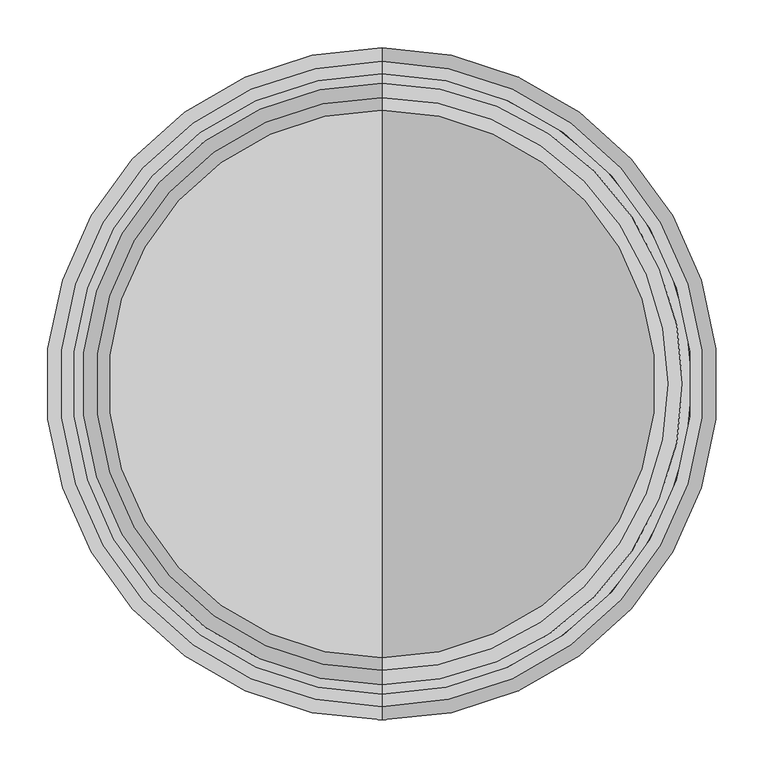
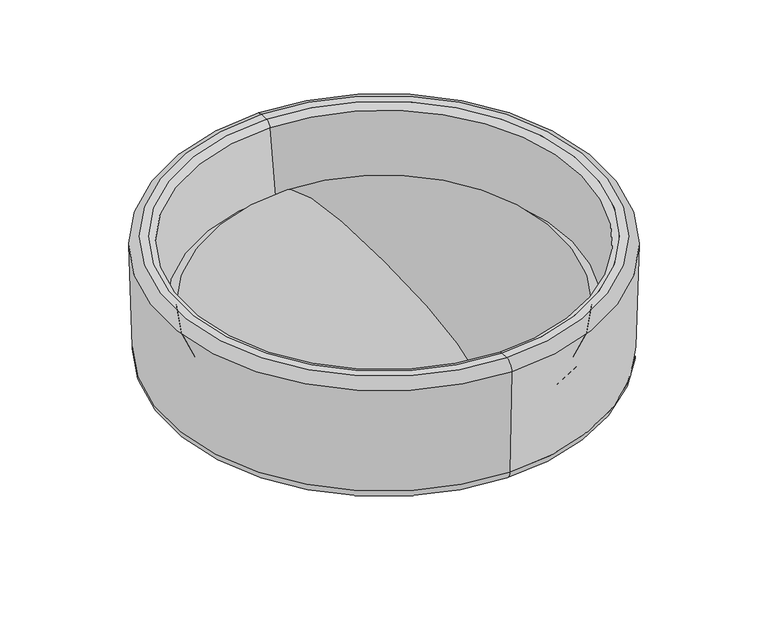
"""IFC4 building model written with IfcOpenShell, lengths in millimetres: light fixture geometry, MARSET_Interior-Lighting-Fixture_Face-Based_Ringo-70C : A732-001-53-3CCT."""

from ifc_helpers import new_model, si_unit, point, frame, origin, place, context, project, spatial, polyline, circle_curve, ellipse_curve, trimmed, source, transform, mapped, element, save
from ifc_brep_helpers import plane_surface, cylinder_surface, revolved_surface, spline_curve, advanced_brep


def light_fixture_47f498ca(model_context):
    return source(origin(), model_context, "Body", "AdvancedBrep", [
        advanced_brep(
        [(0.0, -250.3034973, 121.8623352), (0.0, 250.3034973, 121.8623352), (0.0, 0.0, 121.8623352), (0.0, 0.0, 219.5871917)],
        [
            (0, 1, circle_curve(frame((0.0, 0.0, 121.8623352), z_axis=(0.0, 0.0, -1.0), x_axis=(0.0, 1.0, 0.0)), 250.3034973)),
            (1, 2),
            (2, 0),
            (1, 0, circle_curve(frame((0.0, 0.0, 121.8623352), z_axis=(0.0, 0.0, -1.0), x_axis=(0.0, 1.0, 0.0)), 250.3034973)),
            (3, 1, spline_curve(3, [(0.0, 0.0, 219.5871917), (0.0, 132.18064352, 219.5871917), (0.0, 213.977829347, 207.24511407), (0.0, 282.55368574, 169.596071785), (0.0, 290.543044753, 149.319119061), (0.0, 277.348055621, 127.613389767), (0.0, 269.134698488, 121.8623352), (0.0, 250.3034973, 121.8623352)], [4, 2, 2, 4], [0.0, 0.36765608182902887, 0.6244787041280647, 0.7482334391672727])),
            (0, 3, spline_curve(3, [(0.0, -250.3034973, 121.8623352), (0.0, -269.134698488, 121.8623352), (0.0, -277.348055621, 127.613389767), (0.0, -290.543044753, 149.319119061), (0.0, -282.55368574, 169.596071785), (0.0, -213.977829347, 207.24511407), (0.0, -132.18064352, 219.5871917), (0.0, 0.0, 219.5871917)], [4, 2, 2, 4], [0.0, 0.12375473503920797, 0.3805773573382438, 0.7482334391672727])),
        ],
        [
            plane_surface(frame((0.0, 0.0, 121.8623352), z_axis=(0.0, 0.0, -1.0), x_axis=(0.0, 1.0, 0.0))),
            revolved_surface(spline_curve(3, [(0.0, 250.3034973, 121.8623352), (0.0, 269.134698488, 121.8623352), (0.0, 277.348055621, 127.613389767), (0.0, 290.543044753, 149.319119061), (0.0, 282.55368574, 169.596071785), (0.0, 213.977829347, 207.24511407), (0.0, 132.18064352, 219.5871917), (0.0, 0.0, 219.5871917)], [4, 2, 2, 4], [0.0, 0.12375473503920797, 0.3805773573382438, 0.7482334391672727]), (0.0, 0.0, 330.0), (0.0, 0.0, 1.0)),
        ],
        [
            (0, [[1, 2, 3]]),
            (0, [[4, -3, -2]]),
            (1, [[5, -1, 6]]),
            (1, [[-6, -4, -5]]),
        ],
    ),
        advanced_brep(
        [(0.0, -336.1360456, 261.7777252), (0.0, 336.1360456, 261.7777252), (0.0, 350.1857811, 247.3490768), (0.0, -350.1857811, 247.3490768), (0.0, -323.3210908, 261.7777252), (0.0, 323.3210908, 261.7777252), (0.0, -313.4184101, 253.1694562), (0.0, 313.4184101, 253.1694562), (0.0, -298.5823019, 147.6050615), (0.0, 298.5823019, 147.6050615), (0.0, -263.9229195, 117.47612), (0.0, 263.9229195, 117.47612), (0.0, 0.0, 117.47612), (0.0, -85.6686743, 50.0), (0.0, 85.6686743, 50.0), (0.0, 0.0, 50.0), (0.0, -85.6686743, 52.5277759), (0.0, 85.6686743, 52.5277759), (0.0, -84.8806425, 53.4669156), (0.0, 84.8806425, 53.4669156), (0.0, -328.8442111, 59.4172605), (0.0, 328.8442111, 59.4172605), (0.0, -345.6296823, 76.1654503), (0.0, 345.6296823, 76.1654503)],
        [
            (0, 1, circle_curve(frame((0.0, 0.0, 261.7777252), z_axis=(0.0, 0.0, -1.0), x_axis=(0.0, 1.0, 0.0)), 336.1360456)),
            (1, 2, circle_curve(frame((0.0, 336.1360456, 247.7230143), z_axis=(-1.0, 0.0, 0.0), x_axis=(0.0, -1.0, 0.0)), 14.0547109)),
            (2, 3, circle_curve(frame((0.0, 0.0, 247.3490768), z_axis=(0.0, 0.0, 1.0), x_axis=(0.0, 1.0, 0.0)), 350.1857811)),
            (3, 0, circle_curve(frame((0.0, -336.1360456, 247.7230143), z_axis=(-1.0, 0.0, 0.0), x_axis=(0.0, 1.0, 0.0)), 14.0547109)),
            (1, 0, circle_curve(frame((0.0, 0.0, 261.7777252), z_axis=(0.0, 0.0, -1.0), x_axis=(0.0, 1.0, 0.0)), 336.1360456)),
            (3, 2, circle_curve(frame((0.0, 0.0, 247.3490768), z_axis=(0.0, 0.0, 1.0), x_axis=(0.0, 1.0, 0.0)), 350.1857811)),
            (4, 5, circle_curve(frame((0.0, 0.0, 261.7777252), z_axis=(0.0, 0.0, -1.0), x_axis=(0.0, 1.0, 0.0)), 323.3210908)),
            (5, 1),
            (0, 4),
            (5, 4, circle_curve(frame((0.0, 0.0, 261.7777252), z_axis=(0.0, 0.0, -1.0), x_axis=(0.0, 1.0, 0.0)), 323.3210908)),
            (6, 7, circle_curve(frame((0.0, 0.0, 253.1694562), z_axis=(0.0, 0.0, -1.0), x_axis=(0.0, 1.0, 0.0)), 313.4184101)),
            (7, 5, circle_curve(frame((0.0, 323.3210908, 251.7777252), z_axis=(-1.0, 0.0, 0.0), x_axis=(0.0, -1.0, 0.0)), 10.0)),
            (4, 6, circle_curve(frame((0.0, -323.3210908, 251.7777252), z_axis=(-1.0, 0.0, 0.0), x_axis=(0.0, 1.0, 0.0)), 10.0)),
            (7, 6, circle_curve(frame((0.0, 0.0, 253.1694562), z_axis=(0.0, 0.0, -1.0), x_axis=(0.0, 1.0, 0.0)), 313.4184101)),
            (8, 9, circle_curve(frame((0.0, 0.0, 147.6050615), z_axis=(0.0, 0.0, -1.0), x_axis=(0.0, 1.0, 0.0)), 298.5823019)),
            (9, 7),
            (6, 8),
            (9, 8, circle_curve(frame((0.0, 0.0, 147.6050615), z_axis=(0.0, 0.0, -1.0), x_axis=(0.0, 1.0, 0.0)), 298.5823019)),
            (10, 11, circle_curve(frame((0.0, 0.0, 117.47612), z_axis=(0.0, 0.0, -1.0), x_axis=(0.0, 1.0, 0.0)), 263.9229195)),
            (11, 9, circle_curve(frame((0.0, 263.9229195, 152.47612), z_axis=(1.0, 0.0, 0.0), x_axis=(0.0, -1.0, 0.0)), 35.0)),
            (8, 10, circle_curve(frame((0.0, -263.9229195, 152.47612), z_axis=(1.0, 0.0, 0.0), x_axis=(0.0, 1.0, 0.0)), 35.0)),
            (11, 10, circle_curve(frame((0.0, 0.0, 117.47612), z_axis=(0.0, 0.0, -1.0), x_axis=(0.0, 1.0, 0.0)), 263.9229195)),
            (12, 11),
            (10, 12),
            (13, 14, circle_curve(frame((0.0, 0.0, 50.0), z_axis=(0.0, 0.0, -1.0), x_axis=(0.0, 1.0, 0.0)), 85.6686743)),
            (14, 15),
            (15, 13),
            (14, 13, circle_curve(frame((0.0, 0.0, 50.0), z_axis=(0.0, 0.0, -1.0), x_axis=(0.0, 1.0, 0.0)), 85.6686743)),
            (16, 17, circle_curve(frame((0.0, 0.0, 52.5277759), z_axis=(0.0, 0.0, -1.0), x_axis=(0.0, 1.0, 0.0)), 85.6686743)),
            (17, 14),
            (13, 16),
            (17, 16, circle_curve(frame((0.0, 0.0, 52.5277759), z_axis=(0.0, 0.0, -1.0), x_axis=(0.0, 1.0, 0.0)), 85.6686743)),
            (18, 19, circle_curve(frame((0.0, 0.0, 53.4669156), z_axis=(0.0, 0.0, -1.0), x_axis=(0.0, 1.0, 0.0)), 84.8806425)),
            (19, 17),
            (16, 18),
            (19, 18, circle_curve(frame((0.0, 0.0, 53.4669156), z_axis=(0.0, 0.0, -1.0), x_axis=(0.0, 1.0, 0.0)), 84.8806425)),
            (20, 21, circle_curve(frame((0.0, 0.0, 59.4172605), z_axis=(0.0, 0.0, -1.0), x_axis=(0.0, 1.0, 0.0)), 328.8442111)),
            (21, 19),
            (18, 20),
            (21, 20, circle_curve(frame((0.0, 0.0, 59.4172605), z_axis=(0.0, 0.0, -1.0), x_axis=(0.0, 1.0, 0.0)), 328.8442111)),
            (22, 23, circle_curve(frame((0.0, 0.0, 76.1654503), z_axis=(0.0, 0.0, -1.0), x_axis=(0.0, 1.0, 0.0)), 345.6296823)),
            (23, 21, circle_curve(frame((0.0, 328.4245489, 76.6233696), z_axis=(-1.0, 0.0, 0.0), x_axis=(0.0, -1.0, 0.0)), 17.2112261)),
            (20, 22, circle_curve(frame((0.0, -328.4245489, 76.6233696), z_axis=(-1.0, 0.0, 0.0), x_axis=(0.0, 1.0, 0.0)), 17.2112261)),
            (23, 22, circle_curve(frame((0.0, 0.0, 76.1654503), z_axis=(0.0, 0.0, -1.0), x_axis=(0.0, 1.0, 0.0)), 345.6296823)),
            (2, 23),
            (22, 3),
        ],
        [
            revolved_surface(trimmed(ellipse_curve(frame((0.0, 336.1360456, 247.7230143), z_axis=(1.0, 0.0, 0.0), x_axis=(0.0, -1.0, 0.0)), 14.0547109, 14.0547109), [point((0.0, 350.1857811, 247.3490768))], [point((0.0, 336.1360456, 261.7777252))], True, "CARTESIAN"), (0.0, 0.0, -22.3332977), (0.0, 0.0, 1.0)),
            plane_surface(frame((0.0, 0.0, 261.7777252), z_axis=(0.0, 0.0, 1.0), x_axis=(0.0, 1.0, 0.0))),
            revolved_surface(trimmed(ellipse_curve(frame((0.0, 323.3210908, 251.7777252), z_axis=(1.0, 0.0, 0.0), x_axis=(0.0, -1.0, 0.0)), 10.0, 10.0), [point((0.0, 323.3210908, 261.7777252))], [point((0.0, 313.4184101, 253.1694562))], True, "CARTESIAN"), (0.0, 0.0, -22.3332977), (0.0, 0.0, 1.0)),
            revolved_surface(polyline([(0.0, 313.4184101, 253.1694562), (0.0, 298.5823019, 147.6050615)]), (0.0, 0.0, -22.3332977), (0.0, 0.0, 1.0)),
            revolved_surface(trimmed(ellipse_curve(frame((0.0, 263.9229195, 152.47612), z_axis=(-1.0, 0.0, 0.0), x_axis=(0.0, -1.0, 0.0)), 35.0, 35.0), [point((0.0, 298.5823019, 147.6050615))], [point((0.0, 263.9229195, 117.47612))], True, "CARTESIAN"), (0.0, 0.0, -22.3332977), (0.0, 0.0, 1.0)),
            plane_surface(frame((0.0, 0.0, 117.47612), z_axis=(0.0, 0.0, 1.0), x_axis=(0.0, 1.0, 0.0))),
            plane_surface(frame((0.0, 0.0, 50.0), z_axis=(0.0, 0.0, -1.0), x_axis=(0.0, 1.0, 0.0))),
            cylinder_surface(frame((0.0, 0.0, -22.3332977), z_axis=(0.0, 0.0, 1.0), x_axis=(0.0, 1.0, 0.0)), 85.6686743),
            revolved_surface(polyline([(0.0, 85.6686743, 52.5277759), (0.0, 84.8806425, 53.4669156)]), (0.0, 0.0, -22.3332977), (0.0, 0.0, 1.0)),
            revolved_surface(polyline([(0.0, 84.8806425, 53.4669156), (0.0, 328.8442111, 59.4172605)]), (0.0, 0.0, -22.3332977), (0.0, 0.0, 1.0)),
            revolved_surface(trimmed(ellipse_curve(frame((0.0, 328.4245489, 76.6233696), z_axis=(1.0, 0.0, 0.0), x_axis=(0.0, -1.0, 0.0)), 17.2112261, 17.2112261), [point((0.0, 328.8442111, 59.4172605))], [point((0.0, 345.6296823, 76.1654503))], True, "CARTESIAN"), (0.0, 0.0, -22.3332977), (0.0, 0.0, 1.0)),
            revolved_surface(polyline([(0.0, 345.6296823, 76.1654503), (0.0, 350.1857811, 247.3490768)]), (0.0, 0.0, -22.3332977), (0.0, 0.0, 1.0)),
        ],
        [
            (0, [[1, 2, 3, 4]]),
            (0, [[5, -4, 6, -2]]),
            (1, [[7, 8, -1, 9]]),
            (1, [[10, -9, -5, -8]]),
            (2, [[11, 12, -7, 13]]),
            (2, [[14, -13, -10, -12]]),
            (3, [[15, 16, -11, 17]]),
            (3, [[18, -17, -14, -16]]),
            (4, [[19, 20, -15, 21]]),
            (4, [[22, -21, -18, -20]]),
            (5, [[23, -19, 24]]),
            (5, [[-24, -22, -23]]),
            (6, [[25, 26, 27]]),
            (6, [[28, -27, -26]]),
            (7, [[29, 30, -25, 31]]),
            (7, [[32, -31, -28, -30]]),
            (8, [[33, 34, -29, 35]]),
            (8, [[36, -35, -32, -34]]),
            (9, [[37, 38, -33, 39]]),
            (9, [[40, -39, -36, -38]]),
            (10, [[41, 42, -37, 43]]),
            (10, [[44, -43, -40, -42]]),
            (11, [[-3, 45, -41, 46]]),
            (11, [[-6, -46, -44, -45]]),
        ],
    ),
        advanced_brep(
        [(0.0, -68.091695, 50.0), (0.0, 68.091695, 50.0), (0.0, 70.123291, 47.968404), (0.0, -70.123291, 47.968404), (0.0, 0.0, 50.0), (0.0, -70.123291, 0.0), (0.0, 70.123291, 0.0), (0.0, 0.0, 0.0)],
        [
            (0, 1, circle_curve(frame((0.0, 0.0, 50.0), z_axis=(0.0, 0.0, -1.0), x_axis=(0.0, 1.0, 0.0)), 68.091695)),
            (1, 2, circle_curve(frame((0.0, 68.091695, 47.968404), z_axis=(-1.0, 0.0, 0.0), x_axis=(0.0, -1.0, 0.0)), 2.031596)),
            (2, 3, circle_curve(frame((0.0, 0.0, 47.968404), z_axis=(0.0, 0.0, 1.0), x_axis=(0.0, 1.0, 0.0)), 70.123291)),
            (3, 0, circle_curve(frame((0.0, -68.091695, 47.968404), z_axis=(-1.0, 0.0, 0.0), x_axis=(0.0, 1.0, 0.0)), 2.031596)),
            (1, 0, circle_curve(frame((0.0, 0.0, 50.0), z_axis=(0.0, 0.0, -1.0), x_axis=(0.0, 1.0, 0.0)), 68.091695)),
            (3, 2, circle_curve(frame((0.0, 0.0, 47.968404), z_axis=(0.0, 0.0, 1.0), x_axis=(0.0, 1.0, 0.0)), 70.123291)),
            (4, 1),
            (0, 4),
            (5, 6, circle_curve(frame((0.0, 0.0, 0.0), z_axis=(0.0, 0.0, -1.0), x_axis=(0.0, 1.0, 0.0)), 70.123291)),
            (6, 7),
            (7, 5),
            (6, 5, circle_curve(frame((0.0, 0.0, 0.0), z_axis=(0.0, 0.0, -1.0), x_axis=(0.0, 1.0, 0.0)), 70.123291)),
            (2, 6),
            (5, 3),
        ],
        [
            revolved_surface(trimmed(ellipse_curve(frame((0.0, 68.091695, 47.968404), z_axis=(1.0, 0.0, 0.0), x_axis=(0.0, -1.0, 0.0)), 2.031596, 2.031596), [point((0.0, 70.123291, 47.968404))], [point((0.0, 68.091695, 50.0))], True, "CARTESIAN"), (0.0, 0.0, -50.0), (0.0, 0.0, 1.0)),
            plane_surface(frame((0.0, 0.0, 50.0), z_axis=(0.0, 0.0, 1.0), x_axis=(0.0, 1.0, 0.0))),
            plane_surface(frame((0.0, 0.0, 0.0), z_axis=(0.0, 0.0, -1.0), x_axis=(0.0, 1.0, 0.0))),
            cylinder_surface(frame((0.0, 0.0, -50.0), z_axis=(0.0, 0.0, 1.0), x_axis=(0.0, 1.0, 0.0)), 70.123291),
        ],
        [
            (0, [[1, 2, 3, 4]]),
            (0, [[5, -4, 6, -2]]),
            (1, [[7, -1, 8]]),
            (1, [[-8, -5, -7]]),
            (2, [[9, 10, 11]]),
            (2, [[12, -11, -10]]),
            (3, [[-3, 13, -9, 14]]),
            (3, [[-6, -14, -12, -13]]),
        ],
    ),
    ])


if __name__ == "__main__":
    model = new_model("IFC4")
    model_context = context("Model", 3, world=origin())
    ifc_project = project(units=[si_unit("LENGTHUNIT", "METRE", prefix="MILLI")], contexts=[model_context])
    site = spatial("IfcSite", under=ifc_project)
    building = spatial("IfcBuilding", under=site)
    placement = place(None, origin())
    light_fixture_shape = light_fixture_47f498ca(model_context)
    element("IfcLightFixture", 1, ObjectType="MARSET_Interior-Lighting-Fixture_Face-Based_Ringo-70C : A732-001-53-3CCT", at=placement, inside=building, context=model_context, shape_type="MappedRepresentation", body=[
        mapped(light_fixture_shape, transform((0.0, 0.0, 0.0), x_axis=(1.0, 0.0, 0.0), y_axis=(0.0, 1.0, 0.0), z_axis=(0.0, 0.0, 1.0))),
    ])
    save(model, "model.ifc")
